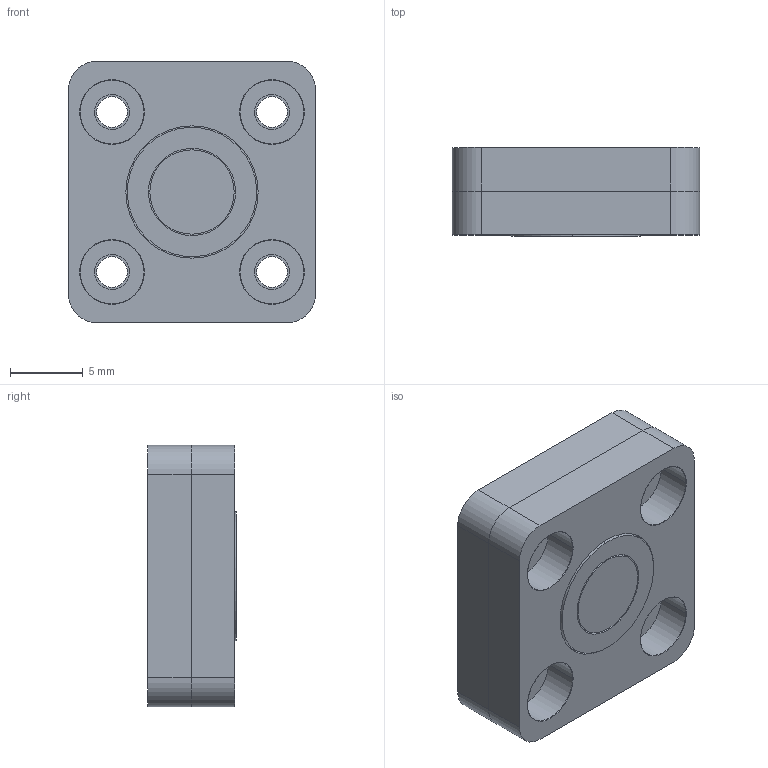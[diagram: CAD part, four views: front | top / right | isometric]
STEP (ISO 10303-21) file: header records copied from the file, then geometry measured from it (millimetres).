
FILE_DESCRIPTION (( 'STEP AP214' ), '1' );
FILE_NAME ('P-200.STEP', '2024-06-03T06:48:32', ( '' ), ( '' ), 'SwSTEP 2.0', 'SolidWorks 2023', '' );
FILE_SCHEMA (( 'AUTOMOTIVE_DESIGN' ));
Length unit declared in the file: millimetre
Products named in the file (10): cross recessed ctsk head screws type b gb_GB_CROSS_SCREWS_TYPE136 M1.6X3-N; P200-Sd; P-200; P200-Cer2; 铜盖-200; P200-Cer1; P200-Su; P200-KV1; P200-KV2; P-200头部粘接组件
Assembly tree (11 placements, depth 3):
  P-200
    P-200头部粘接组件
      P200-KV1
      P200-KV2
      P200-Cer1
      P200-Cer2
    P200-Sd
    P200-Su
    cross recessed ctsk head screws type b gb_GB_CROSS_SCREWS_TYPE136 M1.6X3-N  x3
    铜盖-200
Bounding box: 17 x 6.1 x 18 mm (x, y, z)
Volume: 1251.6 mm3; surface area: 2484.3 mm2
Topology: 10 solids, 10 shells, 233 faces, 556 edges, 351 vertices
Faces by surface type: cylinder 104, plane 77, cone 52
Entity records: 5566 total; most frequent: DIRECTION 1012, CARTESIAN_POINT 921, ORIENTED_EDGE 828, EDGE_CURVE 414, AXIS2_PLACEMENT_3D 406, VERTEX_POINT 263, EDGE_LOOP 223, CIRCLE 212
